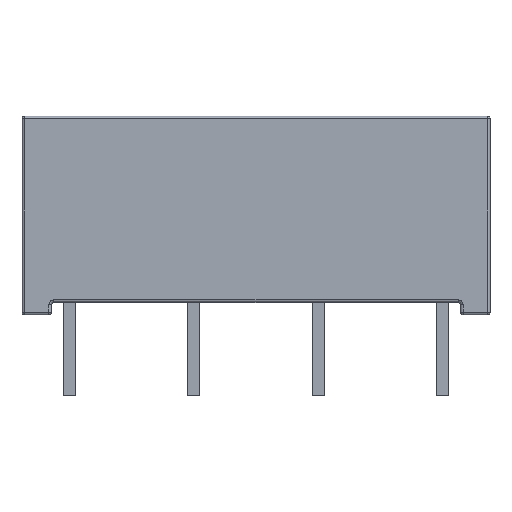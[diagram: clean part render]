
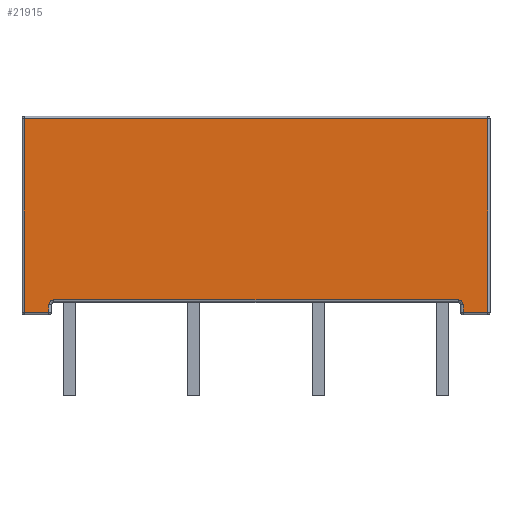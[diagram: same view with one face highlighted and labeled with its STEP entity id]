
A CAD part, top view. The second image highlights one B-rep face of the part: STEP entity #21915.
In plain terms, the highlighted planar face has unit normal (0, 0, 1).
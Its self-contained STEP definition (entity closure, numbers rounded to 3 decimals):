
#17750 = VERTEX_POINT ( 'NONE', #30751 ) ;
#20820 = VERTEX_POINT ( 'NONE', #30844 ) ;
#21785 = ORIENTED_EDGE ( 'NONE', *, *, #21787, .T. ) ;
#21787 = EDGE_CURVE ( 'NONE', #21788, #21842, #31117, .T. ) ;
#21788 = VERTEX_POINT ( 'NONE', #31113 ) ;
#21808 = EDGE_CURVE ( 'NONE', #21865, #21788, #31195, .T. ) ;
#21815 = ORIENTED_EDGE ( 'NONE', *, *, #21808, .T. ) ;
#21841 = ORIENTED_EDGE ( 'NONE', *, *, #21843, .T. ) ;
#21842 = VERTEX_POINT ( 'NONE', #31305 ) ;
#21843 = EDGE_CURVE ( 'NONE', #21842, #21966, #31304, .T. ) ;
#21865 = VERTEX_POINT ( 'NONE', #31319 ) ;
#21881 = VERTEX_POINT ( 'NONE', #31362 ) ;
#21882 = ORIENTED_EDGE ( 'NONE', *, *, #21931, .T. ) ;
#21895 = VERTEX_POINT ( 'NONE', #31385 ) ;
#21901 = ORIENTED_EDGE ( 'NONE', *, *, #21958, .T. ) ;
#21915 = ADVANCED_FACE ( 'NONE', ( #31466 ), #31450, .F. ) ;
#21931 = EDGE_CURVE ( 'NONE', #21881, #21865, #31472, .T. ) ;
#21932 = ORIENTED_EDGE ( 'NONE', *, *, #21936, .F. ) ;
#21935 = EDGE_LOOP ( 'NONE', ( #21932, #21901, #21950, #21944, #21939, #21882, #21815, #21785, #21841, #21965 ) ) ;
#21936 = EDGE_CURVE ( 'NONE', #17750, #20820, #31516, .T. ) ;
#21938 = VERTEX_POINT ( 'NONE', #31508 ) ;
#21939 = ORIENTED_EDGE ( 'NONE', *, *, #21942, .T. ) ;
#21942 = EDGE_CURVE ( 'NONE', #21938, #21881, #31503, .T. ) ;
#21943 = EDGE_CURVE ( 'NONE', #21946, #21938, #31566, .T. ) ;
#21944 = ORIENTED_EDGE ( 'NONE', *, *, #21943, .T. ) ;
#21946 = VERTEX_POINT ( 'NONE', #31558 ) ;
#21949 = EDGE_CURVE ( 'NONE', #21946, #21895, #31556, .T. ) ;
#21950 = ORIENTED_EDGE ( 'NONE', *, *, #21949, .F. ) ;
#21958 = EDGE_CURVE ( 'NONE', #17750, #21895, #31595, .T. ) ;
#21965 = ORIENTED_EDGE ( 'NONE', *, *, #21967, .T. ) ;
#21966 = VERTEX_POINT ( 'NONE', #31622 ) ;
#21967 = EDGE_CURVE ( 'NONE', #21966, #20820, #31621, .T. ) ;
#30751 = CARTESIAN_POINT ( 'NONE',  ( -8.25, 0.1, 2.4 ) ) ;
#30844 = CARTESIAN_POINT ( 'NONE',  ( -8.45, -0.1, 2.4 ) ) ;
#31113 = CARTESIAN_POINT ( 'NONE',  ( -9.45, 7.492, 2.4 ) ) ;
#31114 = DIRECTION ( 'NONE',  ( 0., -1., 0. ) ) ;
#31115 = VECTOR ( 'NONE', #31114, 1000. ) ;
#31116 = CARTESIAN_POINT ( 'NONE',  ( -9.45, 7.592, 2.4 ) ) ;
#31117 = LINE ( 'NONE', #31116, #31115 ) ;
#31192 = DIRECTION ( 'NONE',  ( -1., 0., 0. ) ) ;
#31193 = VECTOR ( 'NONE', #31192, 1000. ) ;
#31194 = CARTESIAN_POINT ( 'NONE',  ( -9.55, 7.492, 2.4 ) ) ;
#31195 = LINE ( 'NONE', #31194, #31193 ) ;
#31301 = DIRECTION ( 'NONE',  ( 1., 0., 0. ) ) ;
#31302 = VECTOR ( 'NONE', #31301, 1000. ) ;
#31303 = CARTESIAN_POINT ( 'NONE',  ( -8.35, -0.408, 2.4 ) ) ;
#31304 = LINE ( 'NONE', #31303, #31302 ) ;
#31305 = CARTESIAN_POINT ( 'NONE',  ( -9.45, -0.408, 2.4 ) ) ;
#31319 = CARTESIAN_POINT ( 'NONE',  ( 9.45, 7.492, 2.4 ) ) ;
#31362 = CARTESIAN_POINT ( 'NONE',  ( 9.45, -0.408, 2.4 ) ) ;
#31385 = CARTESIAN_POINT ( 'NONE',  ( 8.25, 0.1, 2.4 ) ) ;
#31446 = DIRECTION ( 'NONE',  ( -1., 0., 0. ) ) ;
#31447 = DIRECTION ( 'NONE',  ( 0., 0., -1. ) ) ;
#31448 = CARTESIAN_POINT ( 'NONE',  ( 9.55, 7.592, 2.4 ) ) ;
#31449 = AXIS2_PLACEMENT_3D ( 'NONE', #31448, #31447, #31446 ) ;
#31450 = PLANE ( 'NONE',  #31449 ) ;
#31466 = FACE_OUTER_BOUND ( 'NONE', #21935, .T. ) ;
#31472 = LINE ( 'NONE', #31537, #31536 ) ;
#31501 = VECTOR ( 'NONE', #31567, 1000. ) ;
#31502 = CARTESIAN_POINT ( 'NONE',  ( 9.55, -0.408, 2.4 ) ) ;
#31503 = LINE ( 'NONE', #31502, #31501 ) ;
#31508 = CARTESIAN_POINT ( 'NONE',  ( 8.45, -0.408, 2.4 ) ) ;
#31512 = DIRECTION ( 'NONE',  ( -1., 0., 0. ) ) ;
#31513 = DIRECTION ( 'NONE',  ( 0., 0., 1. ) ) ;
#31514 = CARTESIAN_POINT ( 'NONE',  ( -8.25, -0.1, 2.4 ) ) ;
#31515 = AXIS2_PLACEMENT_3D ( 'NONE', #31514, #31513, #31512 ) ;
#31516 = CIRCLE ( 'NONE', #31515, 0.2 ) ;
#31535 = DIRECTION ( 'NONE',  ( 0., 1., 0. ) ) ;
#31536 = VECTOR ( 'NONE', #31535, 1000. ) ;
#31537 = CARTESIAN_POINT ( 'NONE',  ( 9.45, 7.592, 2.4 ) ) ;
#31552 = DIRECTION ( 'NONE',  ( -1., 0., 0. ) ) ;
#31553 = DIRECTION ( 'NONE',  ( 0., 0., 1. ) ) ;
#31554 = CARTESIAN_POINT ( 'NONE',  ( 8.25, -0.1, 2.4 ) ) ;
#31555 = AXIS2_PLACEMENT_3D ( 'NONE', #31554, #31553, #31552 ) ;
#31556 = CIRCLE ( 'NONE', #31555, 0.2 ) ;
#31558 = CARTESIAN_POINT ( 'NONE',  ( 8.45, -0.1, 2.4 ) ) ;
#31563 = DIRECTION ( 'NONE',  ( 0., -1., 0. ) ) ;
#31564 = VECTOR ( 'NONE', #31563, 1000. ) ;
#31565 = CARTESIAN_POINT ( 'NONE',  ( 8.45, -0.508, 2.4 ) ) ;
#31566 = LINE ( 'NONE', #31565, #31564 ) ;
#31567 = DIRECTION ( 'NONE',  ( 1., 0., 0. ) ) ;
#31592 = DIRECTION ( 'NONE',  ( 1., 0., 0. ) ) ;
#31593 = VECTOR ( 'NONE', #31592, 1000. ) ;
#31594 = CARTESIAN_POINT ( 'NONE',  ( 9.55, 0.1, 2.4 ) ) ;
#31595 = LINE ( 'NONE', #31594, #31593 ) ;
#31618 = DIRECTION ( 'NONE',  ( 0., 1., 0. ) ) ;
#31619 = VECTOR ( 'NONE', #31618, 1000. ) ;
#31620 = CARTESIAN_POINT ( 'NONE',  ( -8.45, 7.592, 2.4 ) ) ;
#31621 = LINE ( 'NONE', #31620, #31619 ) ;
#31622 = CARTESIAN_POINT ( 'NONE',  ( -8.45, -0.408, 2.4 ) ) ;
